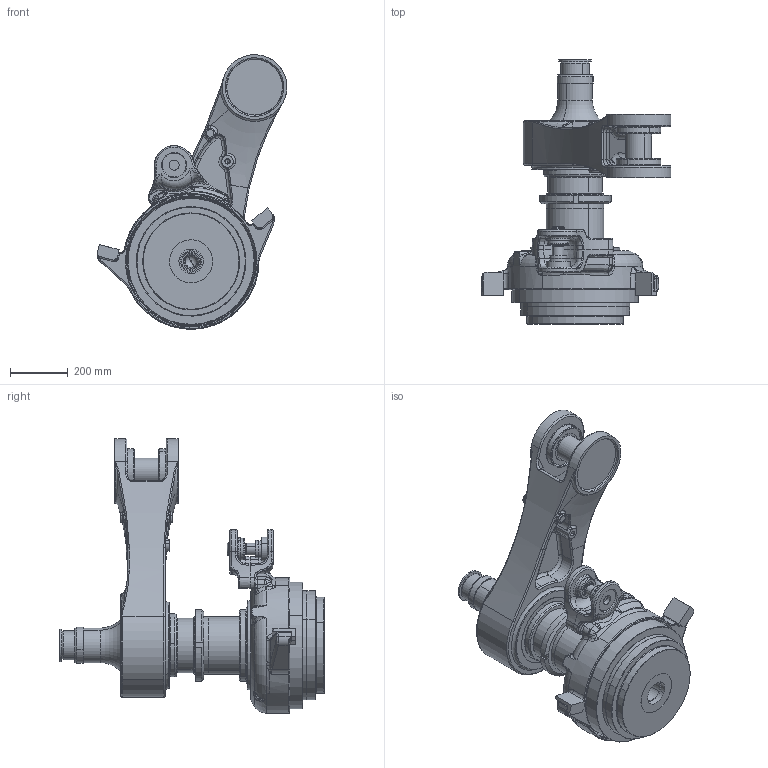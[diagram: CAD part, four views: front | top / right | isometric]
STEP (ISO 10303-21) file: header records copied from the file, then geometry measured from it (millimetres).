
FILE_DESCRIPTION(('CATIA V5 STEP Exchange','CAx-IF Rec.Pracs.--- Model Styling and Organization---1.2---2011-12-15','CAx-IF Rec.Pracs.--- Geometric and Assembly Validation Properties ---3.1---2011-10-19'),'2;1');
FILE_NAME('Z:\ROBOT\CATIA06\products\MC1000DL\Light_model\Step\085_J4Hinge_MC1000DL-02.stp','2016-12-26T04:06:23+00:00',('none'),('none'),'Version 5-6 Release 2012','CATIA V5 STEP AP214','none');
FILE_SCHEMA(('AUTOMOTIVE_DESIGN { 1 0 10303 214 1 1 1 1 }'));
Products named in the file (1): 085_J4Hinge_MC1000DL-02
Bounding box: 660.08 x 918.5 x 954.35 mm (x, y, z)
Volume: 73692573.8 mm3; surface area: 3856098 mm2
Topology: 16 solids, 16 shells, 1130 faces, 2602 edges, 1528 vertices
Faces by surface type: cylinder 314, bspline 243, torus 222, plane 189, cone 158, sphere 4
Entity records: 53105 total; most frequent: CARTESIAN_POINT 30845, ORIENTED_EDGE 5134, DIRECTION 3119, EDGE_CURVE 2567, AXIS2_PLACEMENT_3D 1821, VERTEX_POINT 1528, EDGE_LOOP 1215, CIRCLE 1158
